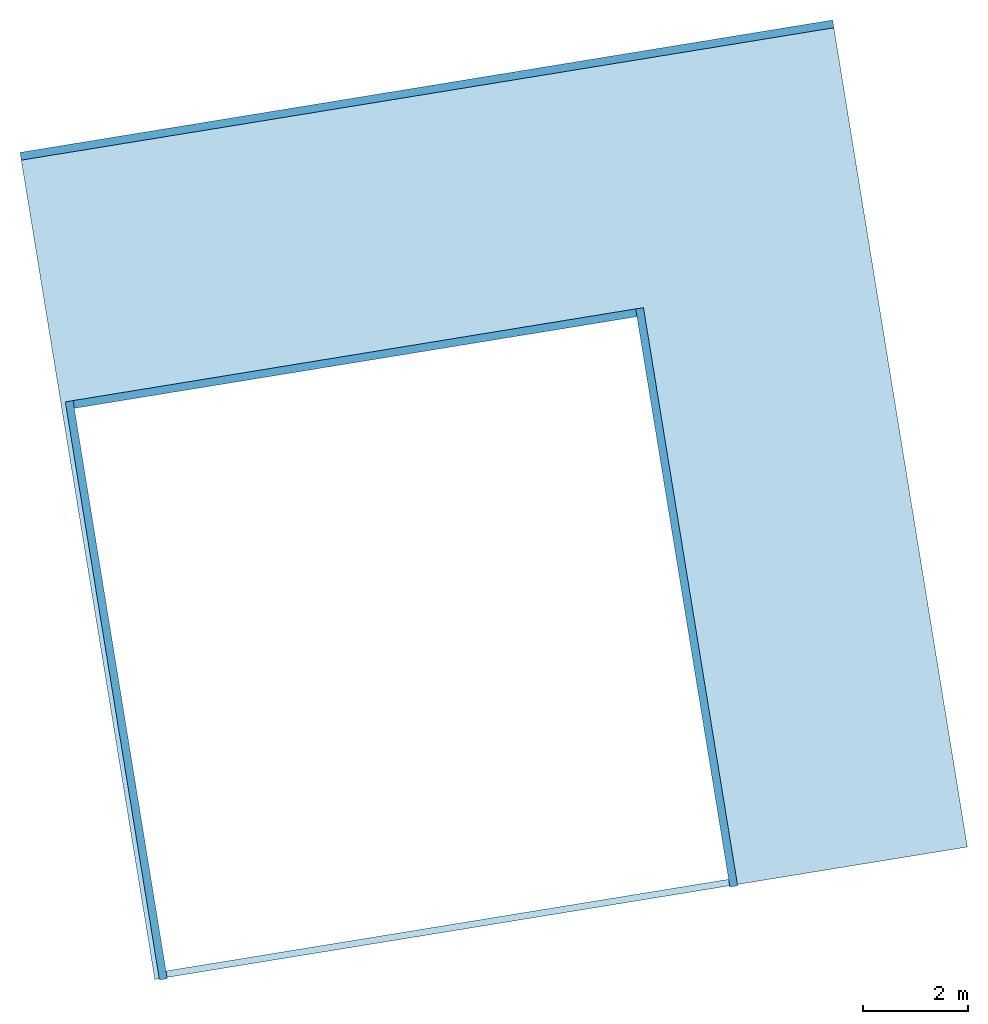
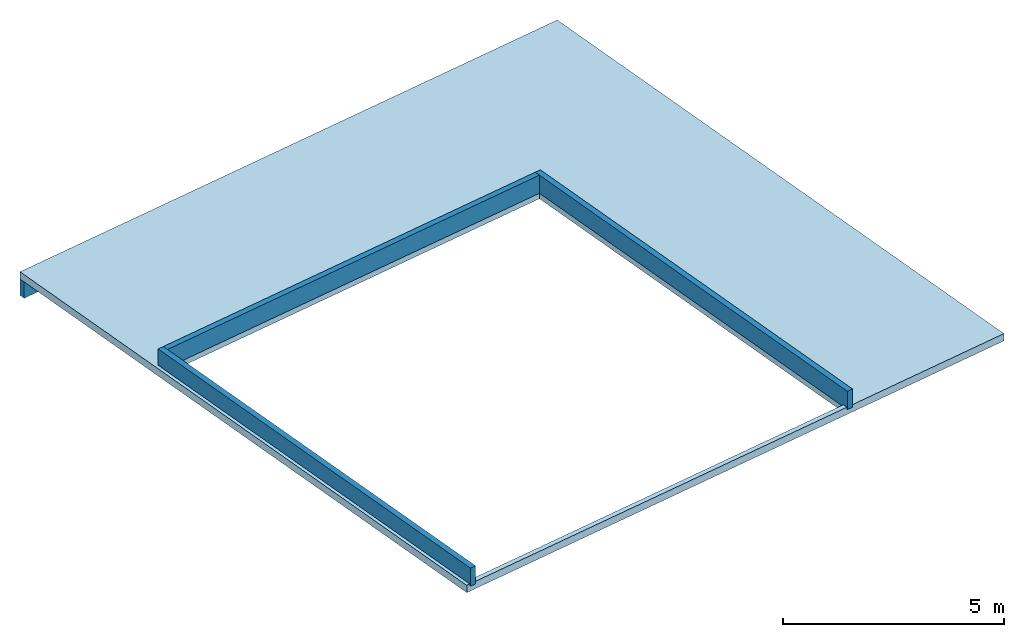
# One storey: 4 walls, 1 slab, 1 element without a shape of its own.
"""IFC2X3 building model written with IfcOpenShell, lengths in millimetres."""

from ifc_helpers import new_model, entity, si_unit, converted_unit, derived_unit, direction, frame, frame_2d, origin, origin_with_axes, place, context, subcontext, project, spatial, rectangle, extrude, faceted_brep, material, layer, layer_set, layer_usage, type_object, element, aggregate, save


model = new_model("IFC2X3")

# Units and contexts
model_context = context("Model", 3, precision=0.01, world=origin(), true_north=direction((6.12323399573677e-17, 1.0)))
plan_context = context("Plan", 3, precision=1e-05, world=origin_with_axes())
body_context = subcontext(model_context, "Body", "Model", "MODEL_VIEW")
ifc_project = project(units=[converted_unit("PLANEANGLEUNIT", "DEGREE", entity("IfcPositiveLengthMeasure", 0.0174532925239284), si_unit("PLANEANGLEUNIT", "RADIAN"), dimensions=[0, 0, 0, 0, 0, 0, 0]), si_unit("AREAUNIT", "SQUARE_METRE"), si_unit("LENGTHUNIT", "METRE", prefix="MILLI"), si_unit("MASSUNIT", "GRAM", prefix="KILO"), si_unit("POWERUNIT", "WATT"), si_unit("PRESSUREUNIT", "PASCAL", prefix="KILO"), si_unit("FORCEUNIT", "NEWTON", prefix="KILO"), si_unit("ELECTRICVOLTAGEUNIT", "VOLT"), si_unit("ELECTRICCURRENTUNIT", "AMPERE"), si_unit("THERMODYNAMICTEMPERATUREUNIT", "DEGREE_CELSIUS"), si_unit("TIMEUNIT", "SECOND"), si_unit("VOLUMEUNIT", "CUBIC_METRE"), derived_unit("LINEARVELOCITYUNIT", [(si_unit("LENGTHUNIT", "METRE"), 1), (si_unit("TIMEUNIT", "SECOND"), -1)]), derived_unit("VOLUMETRICFLOWRATEUNIT", [(si_unit("VOLUMEUNIT", "CUBIC_METRE"), 1), (si_unit("TIMEUNIT", "SECOND"), -1)]), derived_unit("THERMALTRANSMITTANCEUNIT", [(si_unit("POWERUNIT", "WATT"), 1), (si_unit("THERMODYNAMICTEMPERATUREUNIT", "KELVIN"), -1), (si_unit("AREAUNIT", "SQUARE_METRE"), -1)]), derived_unit("SOUNDPRESSUREUNIT", [(si_unit("PRESSUREUNIT", "PASCAL"), 1)])], contexts=[model_context, plan_context])

# Site, building, storey
site_placement = place(None, frame((118326.676922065, 1366174.45681126, 48360.0), z_axis=(0.0, 0.0, 1.0), x_axis=(0.160815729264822, -0.986984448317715, 0.0)))
site = spatial("IfcSite", under=ifc_project, at=site_placement, Name="Default", CompositionType="ELEMENT")
building_placement = place(site_placement, origin_with_axes())
building = spatial("IfcBuilding", under=site, at=building_placement, Name="br002", CompositionType="ELEMENT")
storey_placement = place(building_placement, frame((0.0, 0.0, 7600.0), z_axis=(0.0, 0.0, 1.0), x_axis=(1.0, 0.0, 0.0)))
storey = spatial("IfcBuildingStorey", under=building, at=storey_placement, Name="Tak", CompositionType="ELEMENT", Elevation=7600.0)

# Roof, slab
ifc_material_1 = material(Name="Asphalt, Bitumen")
ifc_layer_1 = layer(ifc_material_1, 20.0)
ifc_material_2 = material(Name="Rigid insulation")
ifc_layer_2 = layer(ifc_material_2, 50.0)
ifc_material_3 = material(Name="Structure, Steel Bar Joist Layer")
ifc_layer_3 = layer(ifc_material_3, 130.0)
ifc_layer_set_1 = layer_set([ifc_layer_1, ifc_layer_2, ifc_layer_3], Name="Basic Roof:Sarnafil Tak")
roof_placement = place(storey_placement, frame((25549.17107821, -21472.8236721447, 0.0), z_axis=(0.0, 0.0, 1.0), x_axis=(1.0, 0.0, 0.0)))
roof = element("IfcRoof", 1, at=roof_placement, inside=storey, material=ifc_layer_set_1, Name="Basic Roof:Sarnafil Tak", ObjectType="Basic Roof:Sarnafil Tak", ShapeType="NOTDEFINED")
slab_type = type_object("IfcSlabType", Name="Basic Roof:Sarnafil Tak", PredefinedType="ROOF")
slab_placement = place(roof_placement, origin_with_axes())
slab = element("IfcSlab", 2, at=slab_placement, type_object=slab_type, Name="Basic Roof:Sarnafil Tak:1", ObjectType="Basic Roof:Sarnafil Tak", PredefinedType="ROOF", context=body_context, shape_type="Brep", body=[
    faceted_brep([(1.81898940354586e-12, 38210.0000000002, 0.0), (1.81898940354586e-12, 38210.0000000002, 200.0), (1.81898940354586e-12, 22537.5000000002, 200.0), (1.81898940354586e-12, 22537.5000000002, 0.0), (15949.9999999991, 22537.5000000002, 2.27373675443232e-13), (15949.9999999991, 38210.0000000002, 5.6843418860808e-14), (15824.9999999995, 33625.0, 0.0), (15824.9999999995, 22775.0, 0.0), (4975.00000000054, 22775.0, 0.0), (4975.00000000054, 33625.0, 0.0), (15949.9999999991, 38210.0000000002, 200.0), (15949.9999999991, 22537.5000000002, 200.0), (15824.9999999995, 22775.0, 200.0), (15824.9999999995, 33625.0, 200.0), (4975.00000000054, 33625.0, 200.0), (4975.00000000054, 22775.0, 200.0)], [[[0, 1, 2, 3]], [[3, 4, 5, 0], [6, 7, 8, 9]], [[1, 10, 11, 2], [12, 13, 14, 15]], [[8, 15, 14, 9]], [[7, 12, 15, 8]], [[6, 13, 12, 7]], [[9, 14, 13, 6]], [[11, 10, 5, 4]], [[10, 1, 0, 5]], [[4, 3, 2, 11]]], orient=[[False], [False, False], [False, False], [False], [False], [False], [False], [False], [False], [False]]),
])
aggregate(roof, [slab])

# Walls
ifc_material_4 = material(Name="Concrete, Cast In Situ")
ifc_layer_4 = layer(ifc_material_4, 150.0)
ifc_layer_set_2 = layer_set([ifc_layer_4], Name="Basic Wall:E 05 Betong 150 mm")
ifc_layer_usage_1 = layer_usage(ifc_layer_set_2, "AXIS2", "NEGATIVE", 75.0)
wall_type = type_object("IfcWallType", Name="Basic Wall:E 05 Betong 150 mm", PredefinedType="STANDARD", material=ifc_layer_set_2)
wall_1_placement = place(storey_placement, frame((30374.17107821, 12227.1763278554, 150.0), z_axis=(0.0, 0.0, 1.0), x_axis=(1.0, 0.0, 0.0)))
element("IfcWallStandardCase", 3, at=wall_1_placement, inside=storey, type_object=wall_type, material=ifc_layer_usage_1, Name="Basic Wall:E 05 Betong 150 mm", ObjectType="Basic Wall:E 05 Betong 150 mm", context=body_context, shape_type="SweptSolid", body=[
    extrude(rectangle(XDim=11149.9999999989, YDim=150.000000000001, at=frame_2d((5574.99999999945, 2.41584530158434e-13), x_axis=(-1.0, 0.0))), origin(), (0.0, 0.0, 1.0), 499.999999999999),
])
ifc_layer_usage_2 = layer_usage(ifc_layer_set_2, "AXIS2", "NEGATIVE", 75.0)
wall_2_placement = place(storey_placement, frame((41524.1710782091, 1227.17632785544, 150.0), z_axis=(0.0, 0.0, 1.0), x_axis=(-1.0, 0.0, 0.0)))
element("IfcWallStandardCase", 4, at=wall_2_placement, inside=storey, type_object=wall_type, material=ifc_layer_usage_2, Name="Basic Wall:E 05 Betong 150 mm", ObjectType="Basic Wall:E 05 Betong 150 mm", context=body_context, shape_type="SweptSolid", body=[
    extrude(rectangle(XDim=11149.9999999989, YDim=150.000000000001, at=frame_2d((5574.99999999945, 2.41584530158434e-13), x_axis=(-1.0, 0.0))), origin(), (0.0, 0.0, 1.0), 499.999999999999),
])
ifc_layer_usage_3 = layer_usage(ifc_layer_set_2, "AXIS2", "NEGATIVE", 75.0)
wall_3_placement = place(storey_placement, frame((30449.1710782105, 1302.1763278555, 150.0), z_axis=(0.0, 0.0, 1.0), x_axis=(0.0, 1.0, 0.0)))
element("IfcWallStandardCase", 5, at=wall_3_placement, inside=storey, type_object=wall_type, material=ifc_layer_usage_3, Name="Basic Wall:E 05 Betong 150 mm", ObjectType="Basic Wall:E 05 Betong 150 mm", context=body_context, shape_type="SweptSolid", body=[
    extrude(rectangle(XDim=10850.0, YDim=150.000000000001, at=frame_2d((5425.0, -1.13686837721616e-13), x_axis=(-1.0, 0.0))), origin(), (0.0, 0.0, 1.0), 499.999999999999),
])
wall_4_placement = place(storey_placement, frame((25624.1710782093, -10072.8236721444, -450.0), z_axis=(0.0, 0.0, 1.0), x_axis=(0.0, 1.0, 0.0)))
element("IfcWall", 6, at=wall_4_placement, inside=storey, type_object=wall_type, Name="Basic Wall:E 05 Betong 150 mm", ObjectType="Basic Wall:E 05 Betong 150 mm", context=body_context, shape_type="Brep", body=[
    faceted_brep([(26810.0, 75.0000000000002, 0.0), (26810.0, 75.0000000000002, 450.0), (11137.4999999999, 75.0000000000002, 450.0), (11137.4999999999, 75.0000000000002, 0.0), (11137.4999999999, -75.0000000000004, 0.0), (11137.4999999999, -75.0000000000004, 450.0), (26810.0, -75.0000000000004, 450.0), (26810.0, -75.0000000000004, 0.0)], [[[0, 1, 2, 3]], [[4, 5, 6, 7]], [[7, 0, 3, 4]], [[1, 6, 5, 2]], [[7, 6, 1, 0]], [[5, 4, 3, 2]]], orient=[[False], [False], [False], [False], [False], [False]]),
])

save(model, "model.ifc")
